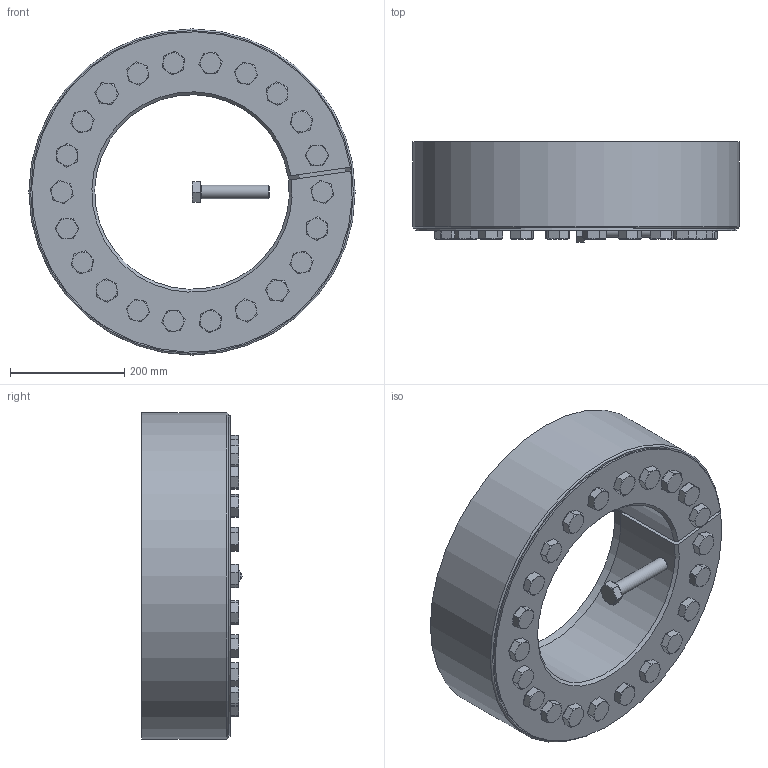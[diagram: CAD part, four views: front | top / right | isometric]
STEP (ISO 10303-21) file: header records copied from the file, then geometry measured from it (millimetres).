
FILE_DESCRIPTION( ( 'Unknown' ), '1' );
FILE_NAME( 'C:/Dokumente und Einstellungen/Sven/Desktop/homepage/cad - homepage/KBS19-1/KBS 19_1 - 340 x 570.stp', 'Unknown', ( 'Unknown' ), ( 'Unknown' ), 'XStep 1.0', 'Unknown', ' ' );
FILE_SCHEMA( ( 'automotive_design' ) );
Length unit declared in the file: millimetre
Products named in the file (3): Assem1; KBS 19_1 - 340 x 570; ISO 4017 - M24 x 120-N
Bounding box: 570 x 175.78 x 570 mm (x, y, z)
Volume: 49239250.4 mm3; surface area: 2340929.9 mm2
Topology: 25 solids, 25 shells, 649 faces, 1446 edges, 870 vertices
Faces by surface type: plane 363, cone 167, cylinder 94, torus 25
Full cylindrical faces by diameter (mm): 24 x67, 36 x23, 570 x2
Entity records: 2234 total; most frequent: CARTESIAN_POINT 389, DIRECTION 352, ORIENTED_EDGE 254, AXIS2_PLACEMENT_3D 157, EDGE_LOOP 137, EDGE_CURVE 127, VERTEX_POINT 98, FACE_OUTER_BOUND 89
